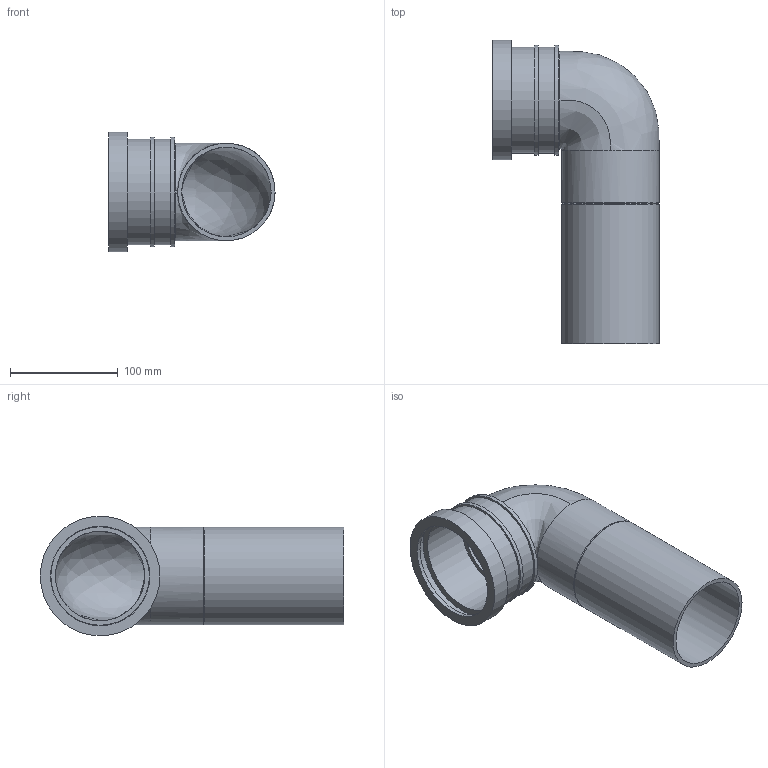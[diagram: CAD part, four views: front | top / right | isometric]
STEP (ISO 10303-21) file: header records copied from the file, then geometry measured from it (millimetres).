
FILE_DESCRIPTION(/* description */ (''),/* implementation_level */ '2;1');
FILE_NAME(/* name */ 'Z:\Geberit\Export\NewStep\366061.stp',/* time_stamp */ '2014-04-02T07:53:31+02:00',/* author */ ('Marco'),/* organization */ (''),/* preprocessor_version */ 'ST-DEVELOPER v15.2',/* originating_system */ 'Autodesk Inventor 2014',/* authorisation */ '');
FILE_SCHEMA (('AUTOMOTIVE_DESIGN { 1 0 10303 214 3 1 1 }'));
Length unit declared in the file: millimetre
Products named in the file (2): 387476b; 366061
Bounding box: 154.19 x 281.5 x 111 mm (x, y, z)
Volume: 344941.8 mm3; surface area: 198782.2 mm2
Topology: 3 solids, 3 shells, 44 faces, 80 edges, 48 vertices
Faces by surface type: plane 16, cylinder 13, bspline 12, cone 2, torus 1
Full cylindrical faces by diameter (mm): 83.025 x3, 90.375 x2, 91.45 x1, 92.2 x1, 98.2 x2, 102 x2, 103.65 x1, 111 x1
Entity records: 1862 total; most frequent: CARTESIAN_POINT 1055, ORIENTED_EDGE 130, DIRECTION 128, EDGE_LOOP 72, AXIS2_PLACEMENT_3D 64, EDGE_CURVE 61, STYLED_ITEM 47, VERTEX_POINT 45
